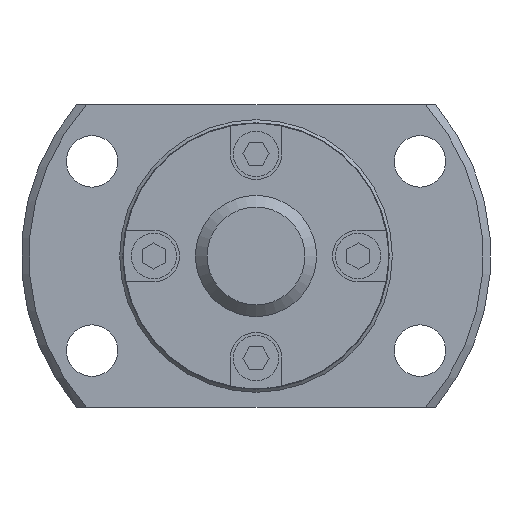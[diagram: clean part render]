
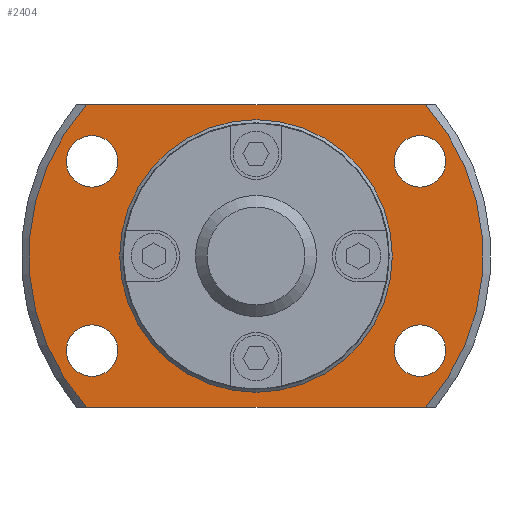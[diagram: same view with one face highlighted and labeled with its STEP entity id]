
A CAD part, left-side view. The second image highlights one B-rep face of the part: STEP entity #2404.
In plain terms, the highlighted planar face has unit normal (-1, 0, 0).
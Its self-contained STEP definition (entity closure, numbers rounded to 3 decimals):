
#133=LINE('',#3757,#359);
#134=LINE('',#3761,#360);
#359=VECTOR('',#3014,1000.);
#360=VECTOR('',#3017,1000.);
#671=ORIENTED_EDGE('',*,*,#1288,.F.);
#672=ORIENTED_EDGE('',*,*,#1289,.F.);
#673=ORIENTED_EDGE('',*,*,#1290,.F.);
#674=ORIENTED_EDGE('',*,*,#1291,.F.);
#675=ORIENTED_EDGE('',*,*,#1274,.F.);
#676=ORIENTED_EDGE('',*,*,#1292,.T.);
#677=ORIENTED_EDGE('',*,*,#1293,.F.);
#678=ORIENTED_EDGE('',*,*,#1294,.T.);
#679=ORIENTED_EDGE('',*,*,#1287,.T.);
#1274=EDGE_CURVE('',#1591,#1592,#1783,.T.);
#1287=EDGE_CURVE('',#1603,#1603,#1791,.T.);
#1288=EDGE_CURVE('',#1604,#1604,#1792,.F.);
#1289=EDGE_CURVE('',#1605,#1605,#1793,.F.);
#1290=EDGE_CURVE('',#1606,#1606,#1794,.F.);
#1291=EDGE_CURVE('',#1607,#1607,#1795,.F.);
#1292=EDGE_CURVE('',#1591,#1608,#133,.T.);
#1293=EDGE_CURVE('',#1609,#1608,#1796,.T.);
#1294=EDGE_CURVE('',#1609,#1592,#134,.T.);
#1591=VERTEX_POINT('',#3705);
#1592=VERTEX_POINT('',#3707);
#1603=VERTEX_POINT('',#3747);
#1604=VERTEX_POINT('',#3750);
#1605=VERTEX_POINT('',#3752);
#1606=VERTEX_POINT('',#3754);
#1607=VERTEX_POINT('',#3756);
#1608=VERTEX_POINT('',#3758);
#1609=VERTEX_POINT('',#3760);
#1783=CIRCLE('',#2610,15.);
#1791=CIRCLE('',#2625,8.85);
#1792=CIRCLE('',#2627,1.7);
#1793=CIRCLE('',#2628,1.7);
#1794=CIRCLE('',#2629,1.7);
#1795=CIRCLE('',#2630,1.7);
#1796=CIRCLE('',#2631,15.);
#1895=EDGE_LOOP('',(#671));
#1896=EDGE_LOOP('',(#672));
#1897=EDGE_LOOP('',(#673));
#1898=EDGE_LOOP('',(#674));
#1899=EDGE_LOOP('',(#675,#676,#677,#678));
#1900=EDGE_LOOP('',(#679));
#2107=FACE_BOUND('',#1895,.T.);
#2108=FACE_BOUND('',#1896,.T.);
#2109=FACE_BOUND('',#1897,.T.);
#2110=FACE_BOUND('',#1898,.T.);
#2111=FACE_BOUND('',#1899,.T.);
#2112=FACE_BOUND('',#1900,.T.);
#2281=PLANE('',#2626);
#2404=ADVANCED_FACE('',(#2107,#2108,#2109,#2110,#2111,#2112),#2281,.F.);
#2610=AXIS2_PLACEMENT_3D('',#3706,#2970,#2971);
#2625=AXIS2_PLACEMENT_3D('',#3746,#3002,#3003);
#2626=AXIS2_PLACEMENT_3D('',#3748,#3004,#3005);
#2627=AXIS2_PLACEMENT_3D('',#3749,#3006,#3007);
#2628=AXIS2_PLACEMENT_3D('',#3751,#3008,#3009);
#2629=AXIS2_PLACEMENT_3D('',#3753,#3010,#3011);
#2630=AXIS2_PLACEMENT_3D('',#3755,#3012,#3013);
#2631=AXIS2_PLACEMENT_3D('',#3759,#3015,#3016);
#2970=DIRECTION('',(1.,0.,0.));
#2971=DIRECTION('',(0.,0.,-1.));
#3002=DIRECTION('',(1.,0.,0.));
#3003=DIRECTION('',(0.,0.,-1.));
#3004=DIRECTION('',(1.,0.,0.));
#3005=DIRECTION('',(0.,0.,-1.));
#3006=DIRECTION('',(1.,0.,0.));
#3007=DIRECTION('',(0.,0.,-1.));
#3008=DIRECTION('',(1.,0.,0.));
#3009=DIRECTION('',(0.,0.,-1.));
#3010=DIRECTION('',(1.,0.,0.));
#3011=DIRECTION('',(0.,0.,-1.));
#3012=DIRECTION('',(1.,0.,0.));
#3013=DIRECTION('',(0.,0.,-1.));
#3014=DIRECTION('',(0.,-1.,0.));
#3015=DIRECTION('',(1.,0.,0.));
#3016=DIRECTION('',(0.,0.,-1.));
#3017=DIRECTION('',(0.,1.,0.));
#3705=CARTESIAN_POINT('',(14.,11.18,-10.));
#3706=CARTESIAN_POINT('',(14.,0.,0.));
#3707=CARTESIAN_POINT('',(14.,11.18,10.));
#3746=CARTESIAN_POINT('',(14.,0.,0.));
#3747=CARTESIAN_POINT('',(14.,0.,-8.85));
#3748=CARTESIAN_POINT('',(14.,8.85,0.));
#3749=CARTESIAN_POINT('',(14.,-10.825,-6.25));
#3750=CARTESIAN_POINT('',(14.,-10.825,-7.95));
#3751=CARTESIAN_POINT('',(14.,-10.825,6.25));
#3752=CARTESIAN_POINT('',(14.,-10.825,4.55));
#3753=CARTESIAN_POINT('',(14.,10.825,-6.25));
#3754=CARTESIAN_POINT('',(14.,10.825,-7.95));
#3755=CARTESIAN_POINT('',(14.,10.825,6.25));
#3756=CARTESIAN_POINT('',(14.,10.825,4.55));
#3757=CARTESIAN_POINT('',(14.,8.85,-10.));
#3758=CARTESIAN_POINT('',(14.,-11.18,-10.));
#3759=CARTESIAN_POINT('',(14.,0.,0.));
#3760=CARTESIAN_POINT('',(14.,-11.18,10.));
#3761=CARTESIAN_POINT('',(14.,8.85,10.));
